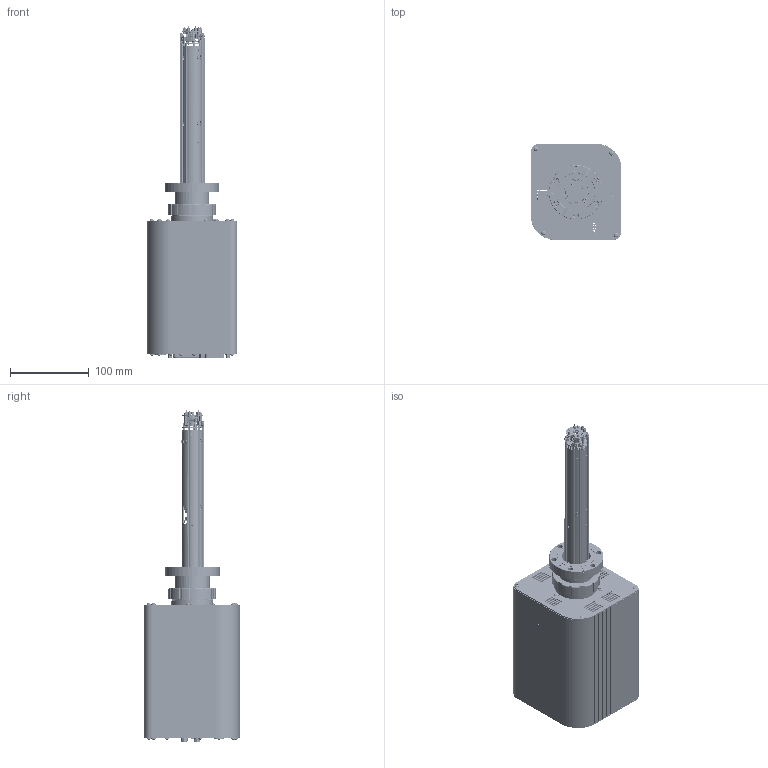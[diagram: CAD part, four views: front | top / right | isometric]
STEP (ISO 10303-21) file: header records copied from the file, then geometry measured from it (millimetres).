
FILE_DESCRIPTION(/* description */ (''),/* implementation_level */ '2;1');
FILE_NAME(/* name */ 'Linxon myRGA EM Ext I-O.stp',/* time_stamp */ '2019-09-12T11:48:00-04:00',/* author */ (''),/* organization */ (''),/* preprocessor_version */ 'ST-DEVELOPER v16',/* originating_system */ 'SIEMENS PLM Software NX 10.0',/* authorisation */ '');
FILE_SCHEMA (('AP203_CONFIGURATION_CONTROLLED_3D_DESIGN_OF_MECHANICAL_PARTS_AND_ASSEMBLIES_MIM_LF { 1 0 10303 403 2 1 2}'));
Products named in the file (1): cbro22485294py2s
Bounding box: 115.06 x 121.67 x 422.11 mm (x, y, z)
Volume: 509028.6 mm3; surface area: 462153 mm2
Topology: 244 solids, 998 shells, 10639 faces, 30450 edges, 21212 vertices
Faces by surface type: plane 5357, cylinder 3506, cone 981, bspline 471, torus 135, extrusion 134, sphere 31, revolution 24
Full cylindrical faces by diameter (mm): 0.127 x2, 0.4 x8, 0.635 x15, 0.716 x4, 0.762 x4, 0.81 x3, 0.813 x4, 0.991 x4, 1 x10, 1.016 x3, 1.1 x2, 1.143 x15, 1.2 x9, 1.221 x18, 1.25 x6, 1.385 x3, 1.496 x3, 1.5 x9, 1.524 x3, 1.575 x29, 1.587 x3, 1.6 x42, 1.65 x18, 1.68 x2, 1.694 x4, 1.697 x8, 1.7 x6, 1.778 x2, 1.8 x5, 1.846 x60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
Entity records: 624903 total; most frequent: CARTESIAN_POINT 358905, ORIENTED_EDGE 53751, DIRECTION 51462, EDGE_CURVE 28344, VERTEX_POINT 20592, AXIS2_PLACEMENT_3D 17837, VECTOR 15764, LINE 15630
